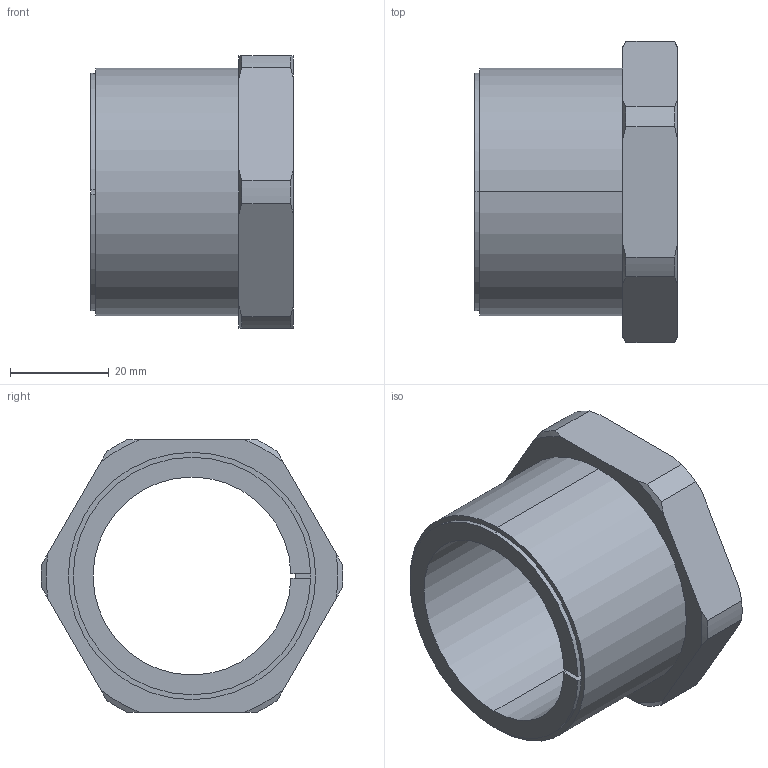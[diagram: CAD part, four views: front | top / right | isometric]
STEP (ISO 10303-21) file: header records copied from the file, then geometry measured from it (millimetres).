
FILE_DESCRIPTION (( 'STEP AP203' ), '1' );
FILE_NAME ('KBS 57 - 40 x 50.STEP', '2015-07-05T18:36:49', ( '' ), ( '' ), 'SwSTEP 2.0', 'SolidWorks 2010', '' );
FILE_SCHEMA (( 'CONFIG_CONTROL_DESIGN' ));
Length unit declared in the file: millimetre
Products named in the file (1): KBS 57 - 40 x 50
Bounding box: 41 x 60.98 x 55 mm (x, y, z)
Volume: 35454.7 mm3; surface area: 15135.1 mm2
Topology: 1 solids, 1 shells, 49 faces, 134 edges, 88 vertices
Faces by surface type: plane 19, cylinder 15, cone 15
Entity records: 1681 total; most frequent: CARTESIAN_POINT 356, ORIENTED_EDGE 268, DIRECTION 260, EDGE_CURVE 134, AXIS2_PLACEMENT_3D 102, VERTEX_POINT 88, LINE 56, VECTOR 56
